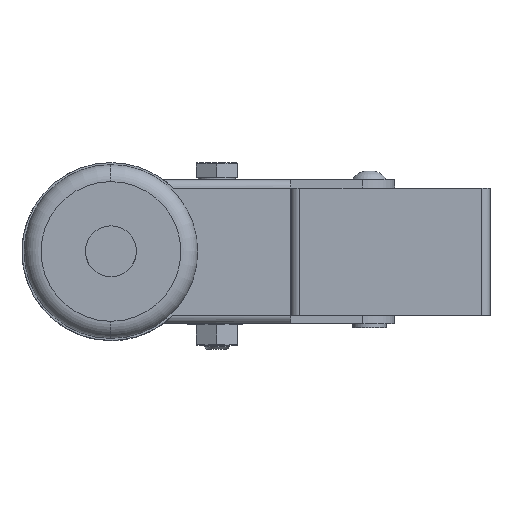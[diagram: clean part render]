
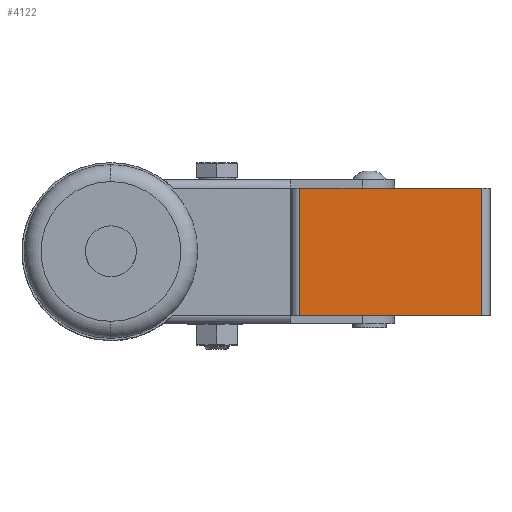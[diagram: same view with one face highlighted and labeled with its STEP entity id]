
A CAD part, top view. The second image highlights one B-rep face of the part: STEP entity #4122.
In plain terms, the highlighted planar face has unit normal (0, 0, 1).
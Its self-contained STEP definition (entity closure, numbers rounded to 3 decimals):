
#121 = EDGE_LOOP ( 'NONE', ( #220, #1692, #700, #3788 ) ) ;
#220 = ORIENTED_EDGE ( 'NONE', *, *, #868, .T. ) ;
#222 = AXIS2_PLACEMENT_3D ( 'NONE', #1545, #2163, #1795 ) ;
#245 = PLANE ( 'NONE',  #222 ) ;
#397 = VERTEX_POINT ( 'NONE', #696 ) ;
#450 = VERTEX_POINT ( 'NONE', #1242 ) ;
#469 = VECTOR ( 'NONE', #2331, 1000. ) ;
#522 = VECTOR ( 'NONE', #2126, 1000. ) ;
#696 = CARTESIAN_POINT ( 'NONE',  ( 44.6, -15., -13.5 ) ) ;
#700 = ORIENTED_EDGE ( 'NONE', *, *, #3548, .F. ) ;
#781 = VECTOR ( 'NONE', #2140, 1000. ) ;
#840 = LINE ( 'NONE', #867, #522 ) ;
#867 = CARTESIAN_POINT ( 'NONE',  ( 44.6, -15., -13.5 ) ) ;
#868 = EDGE_CURVE ( 'NONE', #450, #3534, #2671, .T. ) ;
#1180 = CARTESIAN_POINT ( 'NONE',  ( 44.6, 15., -13.5 ) ) ;
#1242 = CARTESIAN_POINT ( 'NONE',  ( 87.5, -15., -13.5 ) ) ;
#1545 = CARTESIAN_POINT ( 'NONE',  ( 44.6, -15., -13.5 ) ) ;
#1692 = ORIENTED_EDGE ( 'NONE', *, *, #1842, .F. ) ;
#1795 = DIRECTION ( 'NONE',  ( 0., 1., 0. ) ) ;
#1842 = EDGE_CURVE ( 'NONE', #3804, #3534, #2080, .T. ) ;
#2063 = DIRECTION ( 'NONE',  ( 0., 1., 0. ) ) ;
#2080 = LINE ( 'NONE', #1180, #781 ) ;
#2126 = DIRECTION ( 'NONE',  ( 1., 0., 0. ) ) ;
#2140 = DIRECTION ( 'NONE',  ( 1., 0., 0. ) ) ;
#2163 = DIRECTION ( 'NONE',  ( 0., 0., 1. ) ) ;
#2306 = EDGE_CURVE ( 'NONE', #397, #450, #840, .T. ) ;
#2331 = DIRECTION ( 'NONE',  ( 0., 1., 0. ) ) ;
#2379 = CARTESIAN_POINT ( 'NONE',  ( 87.5, -15., -13.5 ) ) ;
#2500 = FACE_OUTER_BOUND ( 'NONE', #121, .T. ) ;
#2671 = LINE ( 'NONE', #2379, #3636 ) ;
#3223 = CARTESIAN_POINT ( 'NONE',  ( 44.6, 15., -13.5 ) ) ;
#3534 = VERTEX_POINT ( 'NONE', #3613 ) ;
#3548 = EDGE_CURVE ( 'NONE', #397, #3804, #3954, .T. ) ;
#3613 = CARTESIAN_POINT ( 'NONE',  ( 87.5, 15., -13.5 ) ) ;
#3632 = CARTESIAN_POINT ( 'NONE',  ( 44.6, -15., -13.5 ) ) ;
#3636 = VECTOR ( 'NONE', #2063, 1000. ) ;
#3788 = ORIENTED_EDGE ( 'NONE', *, *, #2306, .T. ) ;
#3804 = VERTEX_POINT ( 'NONE', #3223 ) ;
#3954 = LINE ( 'NONE', #3632, #469 ) ;
#4122 = ADVANCED_FACE ( 'NONE', ( #2500 ), #245, .T. ) ;
